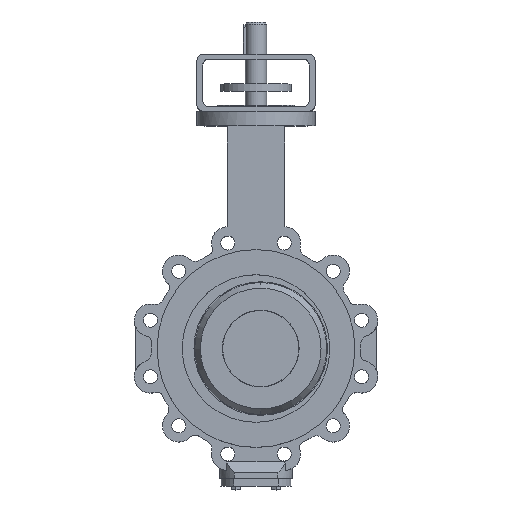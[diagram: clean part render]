
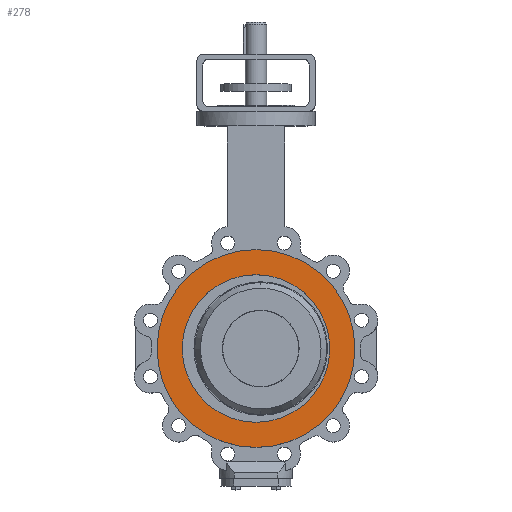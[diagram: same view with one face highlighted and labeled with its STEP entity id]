
A CAD part, top view. The second image highlights one B-rep face of the part: STEP entity #278.
In plain terms, the highlighted planar face has unit normal (0, 0, 1).
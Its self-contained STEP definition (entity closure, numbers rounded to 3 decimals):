
#278 = ADVANCED_FACE( '', ( #800, #801 ), #802, .T. );
#800 = FACE_BOUND( '', #1405, .T. );
#801 = FACE_OUTER_BOUND( '', #1406, .T. );
#802 = PLANE( '', #1407 );
#1405 = EDGE_LOOP( '', ( #3238, #3239, #3240 ) );
#1406 = EDGE_LOOP( '', ( #3241, #3242 ) );
#1407 = AXIS2_PLACEMENT_3D( '', #3243, #3244, #3245 );
#3238 = ORIENTED_EDGE( '', *, *, #3852, .F. );
#3239 = ORIENTED_EDGE( '', *, *, #3851, .F. );
#3240 = ORIENTED_EDGE( '', *, *, #4442, .F. );
#3241 = ORIENTED_EDGE( '', *, *, #3858, .T. );
#3242 = ORIENTED_EDGE( '', *, *, #4440, .T. );
#3243 = CARTESIAN_POINT( '', ( 0., 146.25, 57. ) );
#3244 = DIRECTION( '', ( 0., 0., 1. ) );
#3245 = DIRECTION( '', ( 0., 1., 0. ) );
#3851 = EDGE_CURVE( '', #4590, #4593, #4594, .T. );
#3852 = EDGE_CURVE( '', #4593, #4595, #4596, .T. );
#3858 = EDGE_CURVE( '', #4601, #4605, #4607, .T. );
#4440 = EDGE_CURVE( '', #4605, #4601, #5590, .T. );
#4442 = EDGE_CURVE( '', #4595, #4590, #5592, .T. );
#4590 = VERTEX_POINT( '', #5822 );
#4593 = VERTEX_POINT( '', #5826 );
#4594 = CIRCLE( '', #5827, 125. );
#4595 = VERTEX_POINT( '', #5828 );
#4596 = CIRCLE( '', #5829, 125. );
#4601 = VERTEX_POINT( '', #5835 );
#4605 = VERTEX_POINT( '', #5840 );
#4607 = CIRCLE( '', #5843, 167.5 );
#5590 = CIRCLE( '', #7837, 167.5 );
#5592 = CIRCLE( '', #7839, 125. );
#5822 = CARTESIAN_POINT( '', ( 125., 0., 57. ) );
#5826 = CARTESIAN_POINT( '', ( 0., 125., 57. ) );
#5827 = AXIS2_PLACEMENT_3D( '', #8219, #8220, #8221 );
#5828 = CARTESIAN_POINT( '', ( -125., 0., 57. ) );
#5829 = AXIS2_PLACEMENT_3D( '', #8222, #8223, #8224 );
#5835 = CARTESIAN_POINT( '', ( 0., 167.5, 57. ) );
#5840 = CARTESIAN_POINT( '', ( 0., -167.5, 57. ) );
#5843 = AXIS2_PLACEMENT_3D( '', #8234, #8235, #8236 );
#7837 = AXIS2_PLACEMENT_3D( '', #9324, #9325, #9326 );
#7839 = AXIS2_PLACEMENT_3D( '', #9330, #9331, #9332 );
#8219 = CARTESIAN_POINT( '', ( 0., 0., 57. ) );
#8220 = DIRECTION( '', ( 0., 0., 1. ) );
#8221 = DIRECTION( '', ( 0., 1., 0. ) );
#8222 = CARTESIAN_POINT( '', ( 0., 0., 57. ) );
#8223 = DIRECTION( '', ( 0., 0., 1. ) );
#8224 = DIRECTION( '', ( 0., 1., 0. ) );
#8234 = CARTESIAN_POINT( '', ( 0., 0., 57. ) );
#8235 = DIRECTION( '', ( 0., 0., 1. ) );
#8236 = DIRECTION( '', ( 0., 1., 0. ) );
#9324 = CARTESIAN_POINT( '', ( 0., 0., 57. ) );
#9325 = DIRECTION( '', ( 0., 0., 1. ) );
#9326 = DIRECTION( '', ( 0., 1., 0. ) );
#9330 = CARTESIAN_POINT( '', ( 0., 0., 57. ) );
#9331 = DIRECTION( '', ( 0., 0., 1. ) );
#9332 = DIRECTION( '', ( 0., 1., 0. ) );
